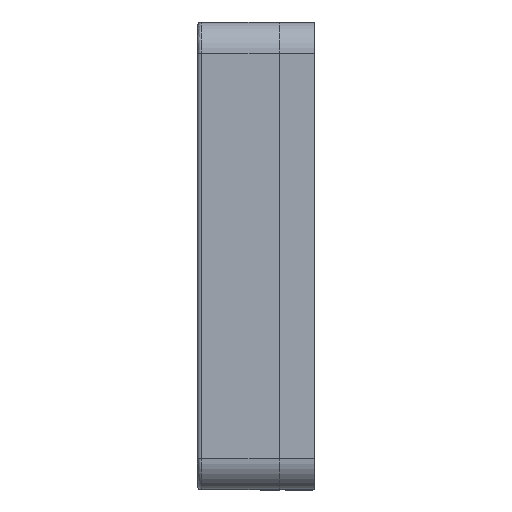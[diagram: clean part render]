
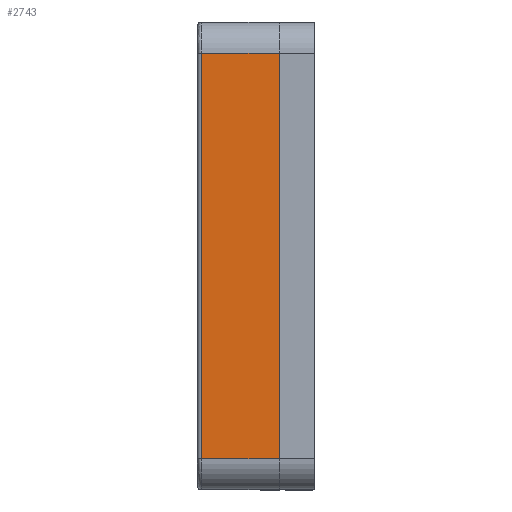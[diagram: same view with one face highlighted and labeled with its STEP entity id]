
A CAD part, left-side view. The second image highlights one B-rep face of the part: STEP entity #2743.
In plain terms, the highlighted planar face has unit normal (-1, 0, 0).
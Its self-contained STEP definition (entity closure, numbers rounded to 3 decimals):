
#1443 = DIRECTION ( 'NONE',  ( 0., 1., 0. ) ) ;
#1939 = CARTESIAN_POINT ( 'NONE',  ( -116.25, 9., -60. ) ) ;
#2300 = VECTOR ( 'NONE', #3895, 1000. ) ;
#2743 = ADVANCED_FACE ( 'NONE', ( #11382 ), #6255, .F. ) ;
#3433 = CARTESIAN_POINT ( 'NONE',  ( -116.25, 29., 60. ) ) ;
#3598 = DIRECTION ( 'NONE',  ( 0., 0., 1. ) ) ;
#3793 = LINE ( 'NONE', #6794, #17238 ) ;
#3895 = DIRECTION ( 'NONE',  ( 0., -1., 0. ) ) ;
#4188 = VERTEX_POINT ( 'NONE', #16289 ) ;
#4257 = VERTEX_POINT ( 'NONE', #15244 ) ;
#4307 = VERTEX_POINT ( 'NONE', #11660 ) ;
#6155 = EDGE_CURVE ( 'NONE', #4257, #16269, #7908, .T. ) ;
#6167 = EDGE_LOOP ( 'NONE', ( #11612, #12510, #12479, #15951 ) ) ;
#6255 = PLANE ( 'NONE',  #13435 ) ;
#6511 = CARTESIAN_POINT ( 'NONE',  ( -116.25, 9., 52. ) ) ;
#6627 = EDGE_CURVE ( 'NONE', #16269, #4188, #11703, .T. ) ;
#6794 = CARTESIAN_POINT ( 'NONE',  ( -116.25, 30., -52. ) ) ;
#7157 = EDGE_CURVE ( 'NONE', #4307, #4257, #11069, .T. ) ;
#7696 = DIRECTION ( 'NONE',  ( 0., 0., -1. ) ) ;
#7908 = LINE ( 'NONE', #14547, #2300 ) ;
#8633 = DIRECTION ( 'NONE',  ( 0., 0., -1. ) ) ;
#11069 = LINE ( 'NONE', #3433, #11693 ) ;
#11382 = FACE_OUTER_BOUND ( 'NONE', #6167, .T. ) ;
#11612 = ORIENTED_EDGE ( 'NONE', *, *, #7157, .F. ) ;
#11619 = CARTESIAN_POINT ( 'NONE',  ( -116.25, 30., -60. ) ) ;
#11660 = CARTESIAN_POINT ( 'NONE',  ( -116.25, 29., -52. ) ) ;
#11693 = VECTOR ( 'NONE', #3598, 1000. ) ;
#11703 = LINE ( 'NONE', #1939, #14398 ) ;
#12479 = ORIENTED_EDGE ( 'NONE', *, *, #6627, .F. ) ;
#12510 = ORIENTED_EDGE ( 'NONE', *, *, #13376, .F. ) ;
#13376 = EDGE_CURVE ( 'NONE', #4188, #4307, #3793, .T. ) ;
#13435 = AXIS2_PLACEMENT_3D ( 'NONE', #11619, #14234, #7696 ) ;
#14234 = DIRECTION ( 'NONE',  ( 1., 0., 0. ) ) ;
#14398 = VECTOR ( 'NONE', #8633, 1000. ) ;
#14547 = CARTESIAN_POINT ( 'NONE',  ( -116.25, 30., 52. ) ) ;
#15244 = CARTESIAN_POINT ( 'NONE',  ( -116.25, 29., 52. ) ) ;
#15951 = ORIENTED_EDGE ( 'NONE', *, *, #6155, .F. ) ;
#16269 = VERTEX_POINT ( 'NONE', #6511 ) ;
#16289 = CARTESIAN_POINT ( 'NONE',  ( -116.25, 9., -52. ) ) ;
#17238 = VECTOR ( 'NONE', #1443, 1000. ) ;
